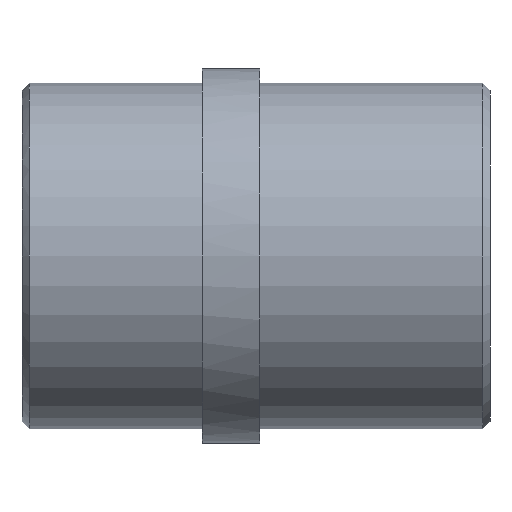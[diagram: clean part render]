
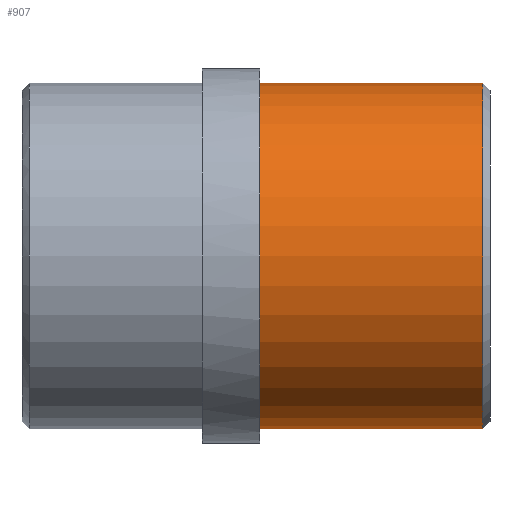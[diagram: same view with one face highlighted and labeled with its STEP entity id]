
A CAD part, front view. The second image highlights one B-rep face of the part: STEP entity #907.
In plain terms, the highlighted cylindrical face has radius 24 mm (diameter 48 mm), a partial arc.
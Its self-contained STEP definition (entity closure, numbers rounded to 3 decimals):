
#773=CARTESIAN_POINT('Vertex',(0.,0.,-24.)) ;
#778=CARTESIAN_POINT('Axis2P3D Location',(0.,0.,0.)) ;
#782=CARTESIAN_POINT('Vertex',(0.,-24.,0.)) ;
#785=CARTESIAN_POINT('Axis2P3D Location',(0.,0.,0.)) ;
#789=CARTESIAN_POINT('Vertex',(0.,0.,24.)) ;
#813=CARTESIAN_POINT('Vertex',(31.,0.,24.)) ;
#820=CARTESIAN_POINT('Vertex',(31.,0.,-24.)) ;
#849=CARTESIAN_POINT('Axis2P3D Location',(31.,0.,0.)) ;
#853=CARTESIAN_POINT('Vertex',(31.,-24.,0.)) ;
#856=CARTESIAN_POINT('Axis2P3D Location',(31.,0.,0.)) ;
#875=CARTESIAN_POINT('Line Origine',(32.,0.,24.)) ;
#880=CARTESIAN_POINT('Line Origine',(32.,0.,-24.)) ;
#894=CARTESIAN_POINT('Axis2P3D Location',(32.,0.,0.)) ;
#779=DIRECTION('Axis2P3D Direction',(1.,0.,-0.)) ;
#786=DIRECTION('Axis2P3D Direction',(1.,0.,-0.)) ;
#850=DIRECTION('Axis2P3D Direction',(-1.,0.,0.)) ;
#857=DIRECTION('Axis2P3D Direction',(-1.,0.,0.)) ;
#876=DIRECTION('Vector Direction',(-1.,0.,0.)) ;
#881=DIRECTION('Vector Direction',(-1.,0.,0.)) ;
#895=DIRECTION('Axis2P3D Direction',(-1.,-0.,-0.)) ;
#896=DIRECTION('Axis2P3D XDirection',(0.,0.,-1.)) ;
#780=AXIS2_PLACEMENT_3D('Circle Axis2P3D',#778,#779,$) ;
#787=AXIS2_PLACEMENT_3D('Circle Axis2P3D',#785,#786,$) ;
#851=AXIS2_PLACEMENT_3D('Circle Axis2P3D',#849,#850,$) ;
#858=AXIS2_PLACEMENT_3D('Circle Axis2P3D',#856,#857,$) ;
#897=AXIS2_PLACEMENT_3D('Cylinder Axis2P3D',#894,#895,#896) ;
#900=ORIENTED_EDGE('',*,*,#884,.T.) ;
#901=ORIENTED_EDGE('',*,*,#860,.F.) ;
#902=ORIENTED_EDGE('',*,*,#855,.F.) ;
#903=ORIENTED_EDGE('',*,*,#879,.T.) ;
#904=ORIENTED_EDGE('',*,*,#791,.T.) ;
#905=ORIENTED_EDGE('',*,*,#784,.T.) ;
#877=VECTOR('Line Direction',#876,1.) ;
#882=VECTOR('Line Direction',#881,1.) ;
#907=ADVANCED_FACE('354-40X65',(#906),#898,.T.) ;
#781=CIRCLE('generated circle',#780,24.) ;
#788=CIRCLE('generated circle',#787,24.) ;
#852=CIRCLE('generated circle',#851,24.) ;
#859=CIRCLE('generated circle',#858,24.) ;
#898=CYLINDRICAL_SURFACE('generated cylinder',#897,24.) ;
#784=EDGE_CURVE('',#783,#774,#781,.T.) ;
#791=EDGE_CURVE('',#790,#783,#788,.T.) ;
#855=EDGE_CURVE('',#814,#854,#852,.F.) ;
#860=EDGE_CURVE('',#854,#821,#859,.F.) ;
#879=EDGE_CURVE('',#814,#790,#878,.T.) ;
#884=EDGE_CURVE('',#774,#821,#883,.F.) ;
#899=EDGE_LOOP('',(#900,#901,#902,#903,#904,#905)) ;
#906=FACE_OUTER_BOUND('',#899,.T.) ;
#878=LINE('Line',#875,#877) ;
#883=LINE('Line',#880,#882) ;
#774=VERTEX_POINT('',#773) ;
#783=VERTEX_POINT('',#782) ;
#790=VERTEX_POINT('',#789) ;
#814=VERTEX_POINT('',#813) ;
#821=VERTEX_POINT('',#820) ;
#854=VERTEX_POINT('',#853) ;
